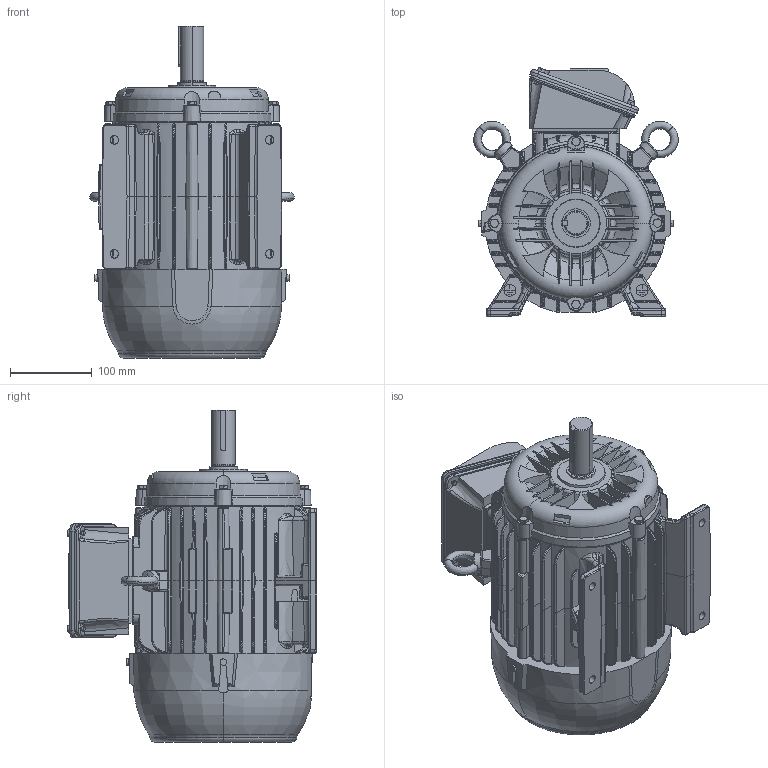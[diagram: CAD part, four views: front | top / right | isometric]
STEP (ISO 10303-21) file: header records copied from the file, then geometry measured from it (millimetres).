
FILE_DESCRIPTION (( 'STEP AP203' ), '1' );
FILE_NAME ('4cdf.STEP', '2022-06-29T10:13:24', ( 'WEG' ), ( 'WEG' ), 'SwSTEP 2.0', 'SolidWorks 2018', '' );
FILE_SCHEMA (( 'CONFIG_CONTROL_DESIGN' ));
Length unit declared in the file: millimetre
Products named in the file (7): W22_FAN_COVER_182T_FC_200; W22_TERMINAL_BOX_184T ; 4cdf; W22_DE_ENDSHIELD_182T_STANDARD; REFERENCE_SOLID; W22_SHAFT_182T_KEY_B; W22_FRAME_184T_WITH_FOOT_TOP
Assembly tree (6 placements, depth 2):
  4cdf
    W22_FRAME_184T_WITH_FOOT_TOP
    W22_DE_ENDSHIELD_182T_STANDARD
    W22_FAN_COVER_182T_FC_200
    W22_SHAFT_182T_KEY_B
    W22_TERMINAL_BOX_184T 
    REFERENCE_SOLID
Bounding box: 250.68 x 305.5 x 407.1 mm (x, y, z)
Volume: 12538306.8 mm3; surface area: 685775.9 mm2
Topology: 18 solids, 18 shells, 1925 faces, 4804 edges, 2936 vertices
Faces by surface type: plane 694, bspline 454, cylinder 451, cone 217, torus 77, sphere 32
Entity records: 81183 total; most frequent: CARTESIAN_POINT 40220, ORIENTED_EDGE 9568, DIRECTION 6955, EDGE_CURVE 4784, VERTEX_POINT 2936, AXIS2_PLACEMENT_3D 2660, EDGE_LOOP 1978, FACE_OUTER_BOUND 1925
